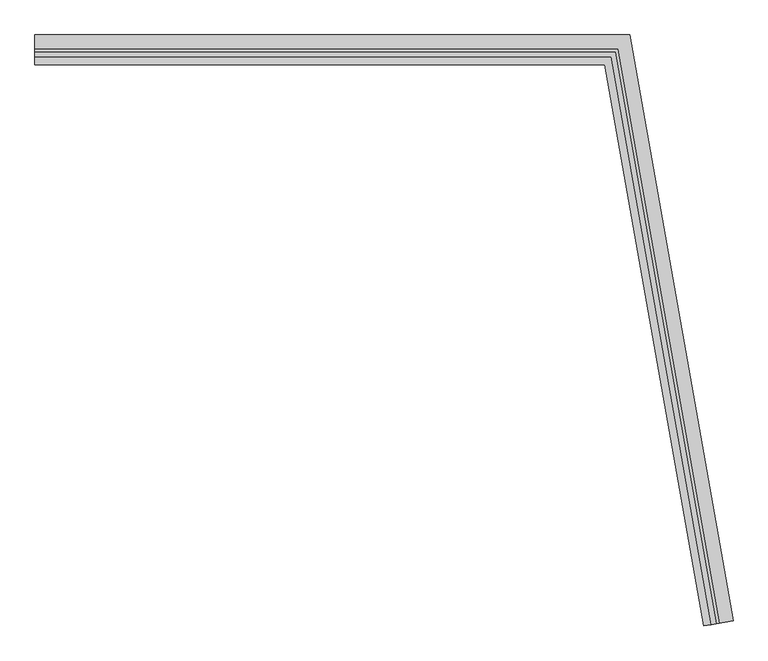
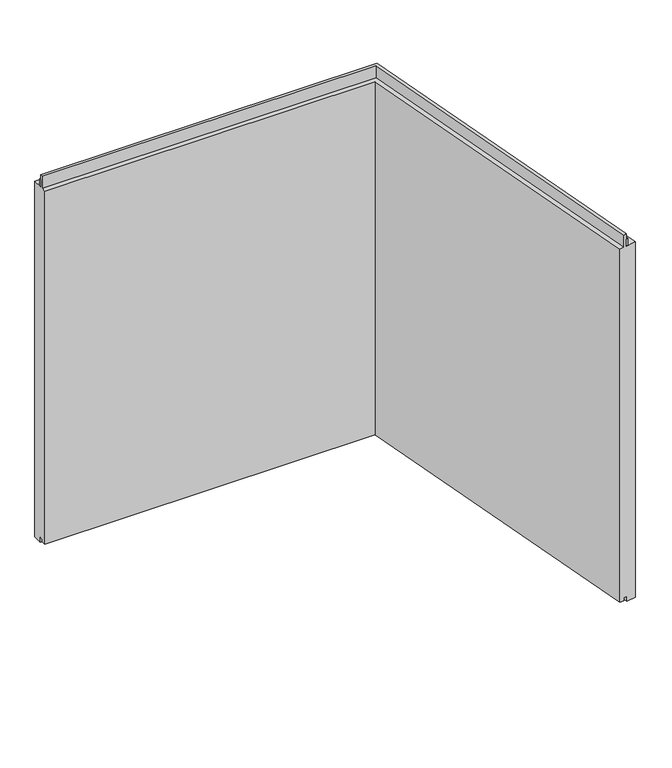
"""IFC4 building model written with IfcOpenShell, lengths in millimetres: plate geometry, Trimo_Qbiss Screen_L Corner Panel-HORIZONTAL : HR - B."""

from ifc_helpers import new_model, si_unit, frame, origin, place, context, project, spatial, polyline, outline, extrude, faceted_brep, source, transform, mapped, element, save


def plate_c64032ae(model_context):
    return source(origin(), model_context, "Body", "SolidModel", [
        extrude(outline(polyline([(-451.7950184, 71.0), (-451.7950184, 76.0), (528.0665904, 76.0), (698.2177732, -888.9753093), (693.2937344, -889.8435502), (523.8710923, 71.0), (-451.7950184, 71.0)])), frame((0.0, 0.0, 1090.5), z_axis=(0.0, 0.0, 1.0), x_axis=(1.0, 0.0, 0.0)), (0.0, 0.0, 1.0), 21.0),
        faceted_brep([(-451.7950184, 71.0, 1089.5), (-451.7950184, 100.0, 1089.5), (-451.7950184, 100.0, 0.0), (-451.7950184, 72.0, 0.0), (-451.7950184, 72.0, 15.5), (-451.7950184, 62.0, 15.5), (-451.7950184, 62.0, 7.0), (-451.7950184, 50.0, 7.0), (-451.7950184, 50.0, 1089.5), (-451.7950184, 63.0, 1089.5), (-451.7950184, 63.0, 1127.0), (-451.7950184, 71.0, 1127.0), (523.8710923, 71.0, 1089.5), (693.2937344, -889.8435502, 1089.5), (721.8531592, -884.807753, 1089.5), (548.2049816, 100.0, 1089.5), (548.2049816, 100.0, 0.0), (721.8531592, -884.807753, 0.0), (694.2785421, -889.669902, 0.0), (524.7101919, 72.0, 0.0), (524.7101919, 72.0, 15.5), (694.2785421, -889.669902, 15.5), (684.4304646, -891.4063838, 15.5), (516.3191956, 62.0, 15.5), (516.3191956, 62.0, 7.0), (684.4304646, -891.4063838, 7.0), (672.6127716, -893.4901619, 7.0), (506.25, 50.0, 7.0), (506.25, 50.0, 1089.5), (672.6127716, -893.4901619, 1089.5), (685.4152724, -891.2327356, 1089.5), (517.1582952, 63.0, 1089.5), (517.1582952, 63.0, 1127.0), (685.4152724, -891.2327356, 1127.0), (693.2937344, -889.8435502, 1127.0), (523.8710923, 71.0, 1127.0)], [[[0, 1, 2, 3, 4, 5, 6, 7, 8, 9, 10, 11]], [[1, 0, 12, 13, 14, 15]], [[2, 1, 15, 16]], [[3, 2, 16, 17, 18, 19]], [[4, 3, 19, 20]], [[5, 4, 20, 21, 22, 23]], [[6, 5, 23, 24]], [[7, 6, 24, 25, 26, 27]], [[8, 7, 27, 28]], [[9, 8, 28, 29, 30, 31]], [[10, 9, 31, 32]], [[11, 10, 32, 33, 34, 35]], [[0, 11, 35, 12]], [[13, 34, 33, 30, 29, 26, 25, 22, 21, 18, 17, 14]], [[16, 15, 14, 17]], [[20, 19, 18, 21]], [[24, 23, 22, 25]], [[28, 27, 26, 29]], [[32, 31, 30, 33]], [[12, 35, 34, 13]]]),
    ])


if __name__ == "__main__":
    model = new_model("IFC4")
    model_context = context("Model", 3, world=origin())
    ifc_project = project(units=[si_unit("LENGTHUNIT", "METRE", prefix="MILLI")], contexts=[model_context])
    site = spatial("IfcSite", under=ifc_project)
    building = spatial("IfcBuilding", under=site)
    placement = place(None, origin())
    plate_shape = plate_c64032ae(model_context)
    element("IfcPlate", 1, ObjectType="Trimo_Qbiss Screen_L Corner Panel-HORIZONTAL : HR - B", at=placement, inside=building, context=model_context, shape_type="MappedRepresentation", body=[
        mapped(plate_shape, transform((0.0, 0.0, 0.0), x_axis=(1.0, 0.0, 0.0), y_axis=(0.0, 1.0, 0.0), z_axis=(0.0, 0.0, 1.0))),
    ])
    save(model, "model.ifc")
